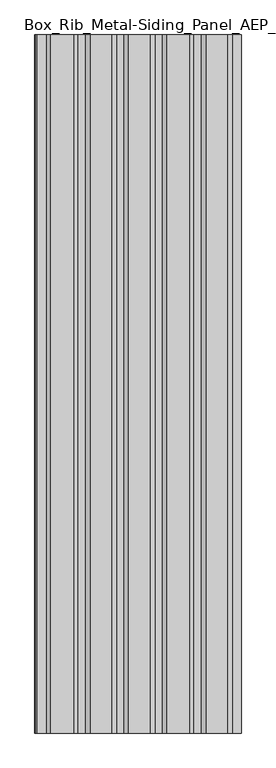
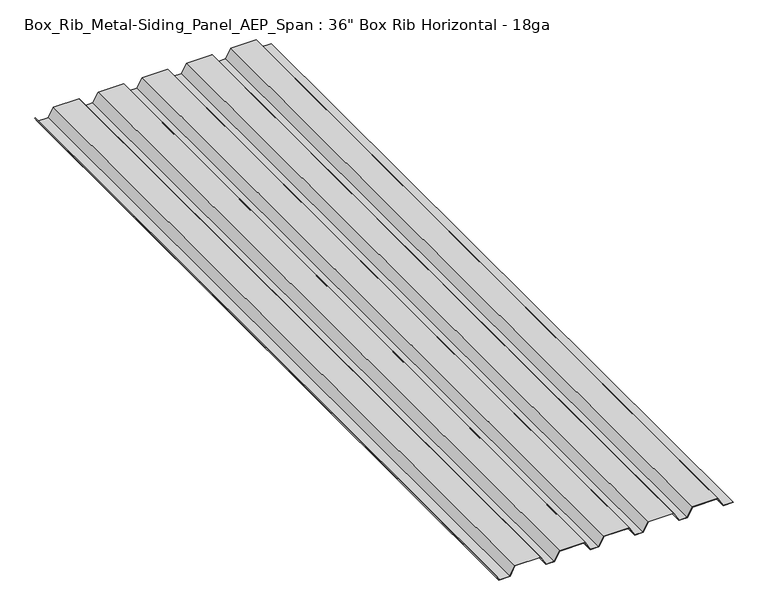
"""IFC4 building model written with IfcOpenShell, lengths in millimetres: proxy geometry."""

from ifc_helpers import new_model, si_unit, frame, origin, place, context, project, spatial, polyline, outline, extrude, source, transform, mapped, element, save


def proxy_838d326f(model_context):
    return source(origin(), model_context, "Body", "SweptSolid", [
        extrude(outline(polyline([(38.1, 417.8382291), (0.0, 439.8731149), (0.0, 480.8472026), (1.16586, 480.8472026), (1.16586, 440.5456459), (39.26586, 418.5107601), (39.26586, 313.1646223), (1.16586, 291.1675771), (1.16586, 257.5893937), (39.26586, 235.5923485), (39.26586, 130.2456321), (1.16586, 108.2485868), (1.16586, 74.6704035), (39.26586, 52.6733582), (39.26586, -52.6733582), (1.16586, -74.6704035), (1.16586, -108.2485868), (39.26586, -130.2456321), (39.26586, -235.5923485), (1.190625, -257.5750956), (1.190625, -291.1818751), (39.26586, -313.1646223), (39.26586, -420.6000666), (1.16586, -440.8581959), (1.16586, -485.8522198), (18.6965395, -495.1838497), (18.1487254, -496.2129898), (0.0, -486.5523723), (0.0, -440.1296285), (38.1, -419.8714991), (38.1, -313.8377319), (0.0, -291.8406866), (0.0, -256.9162841), (38.1, -234.9192389), (38.1, -130.9187416), (0.0, -108.9216964), (0.0, -73.9972939), (38.1, -52.0002486), (38.1, 52.0002486), (0.0, 73.9972939), (0.0, 108.9216964), (38.1, 130.9187416), (38.1, 234.9192389), (0.0, 256.9162841), (0.0, 291.8406866), (38.1, 313.8377319), (38.1, 417.8382291)])), frame((0.0, -3302.0, 0.0), z_axis=(0.0, 1.0, 0.0), x_axis=(0.0, 0.0, 1.0)), (0.0, 0.0, 1.0), 3302.0),
    ])


if __name__ == "__main__":
    model = new_model("IFC4")
    model_context = context("Model", 3, world=origin())
    ifc_project = project(units=[si_unit("LENGTHUNIT", "METRE", prefix="MILLI")], contexts=[model_context])
    site = spatial("IfcSite", under=ifc_project)
    building = spatial("IfcBuilding", under=site)
    placement = place(None, origin())
    proxy_shape = proxy_838d326f(model_context)
    element("IfcBuildingElementProxy", 1, Name="Box_Rib_Metal-Siding_Panel_AEP_Span : 36\" Box Rib Horizontal - 18ga", ObjectType="Box_Rib_Metal-Siding_Panel_AEP_Span : 36\" Box Rib Horizontal - 18ga", at=placement, inside=building, context=model_context, shape_type="MappedRepresentation", body=[
        mapped(proxy_shape, transform((0.0, 0.0, 0.0), x_axis=(1.0, 0.0, 0.0), y_axis=(0.0, 1.0, 0.0), z_axis=(0.0, 0.0, 1.0))),
    ])
    save(model, "model.ifc")
